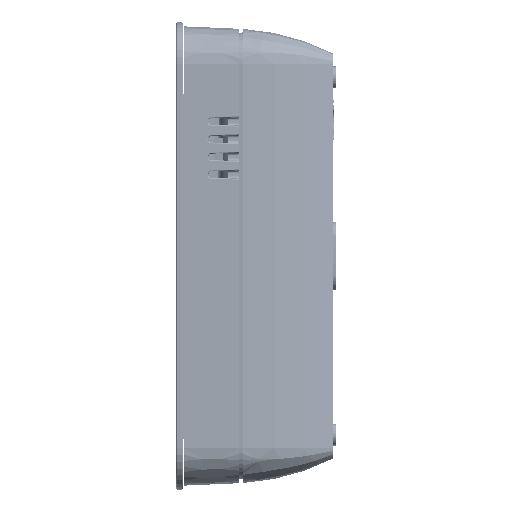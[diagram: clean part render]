
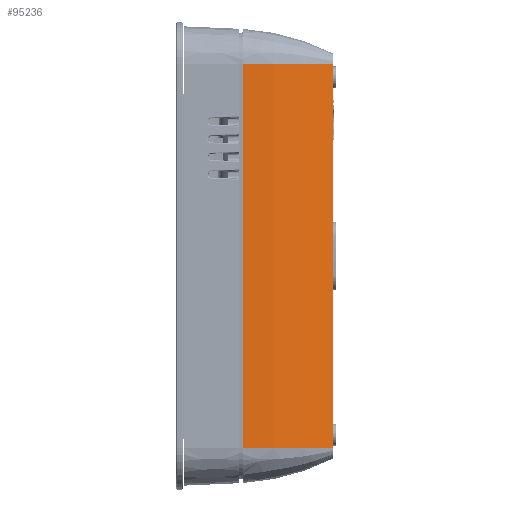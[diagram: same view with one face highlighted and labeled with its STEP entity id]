
A CAD part, left-side view. The second image highlights one B-rep face of the part: STEP entity #95236.
In plain terms, the highlighted cylindrical face has radius 41.094 mm (diameter 82.188 mm), a partial arc.
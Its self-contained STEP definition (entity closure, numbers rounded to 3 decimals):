
#2867=CYLINDRICAL_SURFACE('',#101887,41.094);
#5058=CIRCLE('',#101880,41.094);
#5063=CIRCLE('',#101888,41.094);
#10123=FACE_OUTER_BOUND('',#15750,.T.);
#15750=EDGE_LOOP('',(#68092,#68093,#68094,#68095));
#21442=LINE('',#141780,#30883);
#22330=LINE('',#145490,#31771);
#30883=VECTOR('',#110665,10.);
#31771=VECTOR('',#113275,10.);
#40456=VERTEX_POINT('',#141777);
#40457=VERTEX_POINT('',#141779);
#41328=VERTEX_POINT('',#145487);
#41329=VERTEX_POINT('',#145489);
#49989=EDGE_CURVE('',#40457,#40456,#21442,.F.);
#51324=EDGE_CURVE('',#41329,#41328,#22330,.T.);
#51329=EDGE_CURVE('',#41328,#40457,#5058,.T.);
#51334=EDGE_CURVE('',#41329,#40456,#5063,.T.);
#68092=ORIENTED_EDGE('',*,*,#51324,.T.);
#68093=ORIENTED_EDGE('',*,*,#51329,.T.);
#68094=ORIENTED_EDGE('',*,*,#49989,.T.);
#68095=ORIENTED_EDGE('',*,*,#51334,.F.);
#95236=ADVANCED_FACE('',(#10123),#2867,.T.);
#101880=AXIS2_PLACEMENT_3D('',#145506,#113284,#113285);
#101887=AXIS2_PLACEMENT_3D('',#145531,#113298,#113299);
#101888=AXIS2_PLACEMENT_3D('',#145532,#113300,#113301);
#110665=DIRECTION('',(-1.,0.,0.));
#113275=DIRECTION('',(-1.,0.,0.));
#113284=DIRECTION('center_axis',(1.,0.,0.));
#113285=DIRECTION('ref_axis',(0.,0.919,0.395));
#113298=DIRECTION('center_axis',(-1.,0.,0.));
#113299=DIRECTION('ref_axis',(0.,0.919,0.395));
#113300=DIRECTION('center_axis',(1.,0.,0.));
#113301=DIRECTION('ref_axis',(0.,0.919,0.395));
#141777=CARTESIAN_POINT('',(34.689,36.601,16.8));
#141779=CARTESIAN_POINT('',(-34.689,36.601,16.8));
#141780=CARTESIAN_POINT('',(34.689,36.601,16.8));
#145487=CARTESIAN_POINT('',(-34.689,41.041,0.5));
#145489=CARTESIAN_POINT('',(34.689,41.041,0.5));
#145490=CARTESIAN_POINT('',(34.689,41.041,0.5));
#145506=CARTESIAN_POINT('Origin',(-34.689,0.018,
-1.921));
#145531=CARTESIAN_POINT('Origin',(34.689,0.018,-1.921));
#145532=CARTESIAN_POINT('Origin',(34.689,0.018,-1.921));
